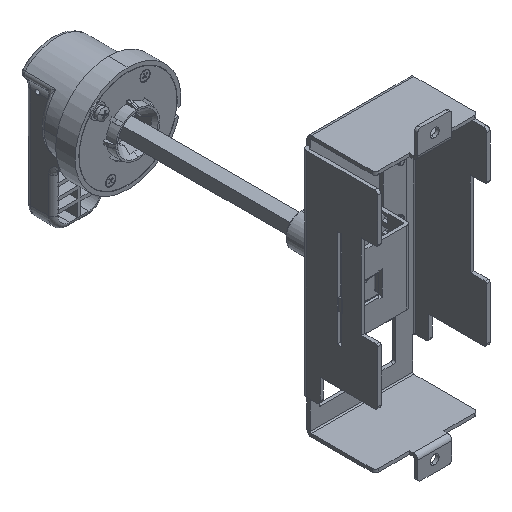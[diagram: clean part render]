
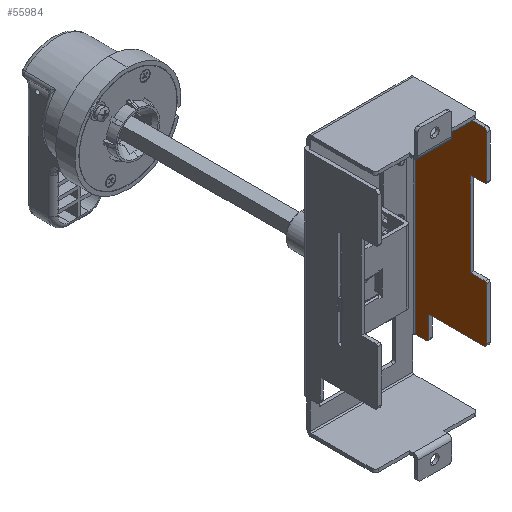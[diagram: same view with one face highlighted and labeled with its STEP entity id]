
A CAD part, isometric view. The second image highlights one B-rep face of the part: STEP entity #55984.
In plain terms, the highlighted planar face has unit normal (-1, 0, 0).
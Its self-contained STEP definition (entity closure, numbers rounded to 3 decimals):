
#4 = VERTEX_POINT ( 'NONE', #61435 ) ;
#207 = CIRCLE ( 'NONE', #48652, 1. ) ;
#311 = LINE ( 'NONE', #48510, #53849 ) ;
#364 = ORIENTED_EDGE ( 'NONE', *, *, #46900, .T. ) ;
#493 = VERTEX_POINT ( 'NONE', #13564 ) ;
#1115 = CARTESIAN_POINT ( 'NONE',  ( 44.972, 17.394, -58.7 ) ) ;
#1144 = CIRCLE ( 'NONE', #63835, 2. ) ;
#1389 = DIRECTION ( 'NONE',  ( 0., -1., 0. ) ) ;
#1519 = FACE_OUTER_BOUND ( 'NONE', #9848, .T. ) ;
#2169 = VERTEX_POINT ( 'NONE', #49997 ) ;
#2609 = CARTESIAN_POINT ( 'NONE',  ( 44.972, -26.369, 54.5 ) ) ;
#3381 = ORIENTED_EDGE ( 'NONE', *, *, #44784, .T. ) ;
#3413 = CARTESIAN_POINT ( 'NONE',  ( 44.972, -26.369, -10. ) ) ;
#3708 = CARTESIAN_POINT ( 'NONE',  ( 44.972, 148.666, 54.5 ) ) ;
#3819 = DIRECTION ( 'NONE',  ( 0., 0., -1. ) ) ;
#4084 = EDGE_CURVE ( 'NONE', #6227, #63816, #23210, .T. ) ;
#4148 = EDGE_CURVE ( 'NONE', #7546, #59393, #207, .T. ) ;
#4494 = CARTESIAN_POINT ( 'NONE',  ( 44.972, 9.131, -44. ) ) ;
#4529 = CARTESIAN_POINT ( 'NONE',  ( 44.972, -26.369, 54.5 ) ) ;
#4937 = CARTESIAN_POINT ( 'NONE',  ( 44.972, 11.131, -56.7 ) ) ;
#5058 = CARTESIAN_POINT ( 'NONE',  ( 44.972, -16.369, -9. ) ) ;
#6227 = VERTEX_POINT ( 'NONE', #47535 ) ;
#6502 = ORIENTED_EDGE ( 'NONE', *, *, #34983, .T. ) ;
#6683 = LINE ( 'NONE', #4529, #55047 ) ;
#7546 = VERTEX_POINT ( 'NONE', #3413 ) ;
#7803 = ORIENTED_EDGE ( 'NONE', *, *, #28020, .F. ) ;
#7988 = VECTOR ( 'NONE', #45775, 1000. ) ;
#8133 = AXIS2_PLACEMENT_3D ( 'NONE', #3708, #41187, #50863 ) ;
#8319 = CARTESIAN_POINT ( 'NONE',  ( 44.972, 17.394, 72.5 ) ) ;
#8654 = VECTOR ( 'NONE', #46830, 1000. ) ;
#9848 = EDGE_LOOP ( 'NONE', ( #16262, #6502, #15482, #56153, #27268, #56077, #23712, #3381, #33204, #10256, #16288, #11015, #34588, #364, #7803 ) ) ;
#10256 = ORIENTED_EDGE ( 'NONE', *, *, #40729, .T. ) ;
#10294 = DIRECTION ( 'NONE',  ( 0., 0., -1. ) ) ;
#10487 = VERTEX_POINT ( 'NONE', #45439 ) ;
#11015 = ORIENTED_EDGE ( 'NONE', *, *, #19395, .T. ) ;
#11220 = LINE ( 'NONE', #46560, #57691 ) ;
#12571 = DIRECTION ( 'NONE',  ( 0., 0., -1. ) ) ;
#13133 = CARTESIAN_POINT ( 'NONE',  ( 44.972, -24.369, 70.5 ) ) ;
#13564 = CARTESIAN_POINT ( 'NONE',  ( 44.972, -26.369, -42. ) ) ;
#15482 = ORIENTED_EDGE ( 'NONE', *, *, #22917, .T. ) ;
#16167 = EDGE_CURVE ( 'NONE', #61463, #43151, #29703, .T. ) ;
#16262 = ORIENTED_EDGE ( 'NONE', *, *, #16167, .T. ) ;
#16288 = ORIENTED_EDGE ( 'NONE', *, *, #16653, .F. ) ;
#16653 = EDGE_CURVE ( 'NONE', #4, #26269, #37208, .T. ) ;
#16744 = EDGE_CURVE ( 'NONE', #2169, #48540, #34700, .T. ) ;
#17793 = CARTESIAN_POINT ( 'NONE',  ( 44.972, 9.131, -56.7 ) ) ;
#17829 = DIRECTION ( 'NONE',  ( -1., 0., 0. ) ) ;
#18459 = DIRECTION ( 'NONE',  ( 0., 0., 1. ) ) ;
#19395 = EDGE_CURVE ( 'NONE', #4, #52447, #11220, .T. ) ;
#21037 = DIRECTION ( 'NONE',  ( -1., 0., 0. ) ) ;
#21649 = DIRECTION ( 'NONE',  ( 0., 0., -1. ) ) ;
#22917 = EDGE_CURVE ( 'NONE', #493, #7546, #6683, .T. ) ;
#23210 = LINE ( 'NONE', #5058, #63266 ) ;
#23712 = ORIENTED_EDGE ( 'NONE', *, *, #39711, .F. ) ;
#23717 = CARTESIAN_POINT ( 'NONE',  ( 44.972, 148.666, -58.7 ) ) ;
#24087 = CARTESIAN_POINT ( 'NONE',  ( 44.972, -24.369, -42. ) ) ;
#26269 = VERTEX_POINT ( 'NONE', #46221 ) ;
#26338 = CIRCLE ( 'NONE', #64117, 1. ) ;
#27268 = ORIENTED_EDGE ( 'NONE', *, *, #41089, .F. ) ;
#28020 = EDGE_CURVE ( 'NONE', #61463, #62460, #49801, .T. ) ;
#28308 = AXIS2_PLACEMENT_3D ( 'NONE', #13133, #50653, #21649 ) ;
#29703 = LINE ( 'NONE', #37256, #55281 ) ;
#32603 = DIRECTION ( 'NONE',  ( 0., 0., -1. ) ) ;
#32958 = DIRECTION ( 'NONE',  ( -1., 0., 0. ) ) ;
#33204 = ORIENTED_EDGE ( 'NONE', *, *, #16744, .T. ) ;
#34588 = ORIENTED_EDGE ( 'NONE', *, *, #63498, .T. ) ;
#34700 = LINE ( 'NONE', #2609, #56698 ) ;
#34730 = PLANE ( 'NONE',  #8133 ) ;
#34983 = EDGE_CURVE ( 'NONE', #43151, #493, #1144, .T. ) ;
#35306 = CARTESIAN_POINT ( 'NONE',  ( 44.972, -16.369, -9. ) ) ;
#37078 = CARTESIAN_POINT ( 'NONE',  ( 44.972, -25.369, 44. ) ) ;
#37208 = LINE ( 'NONE', #8319, #7988 ) ;
#37256 = CARTESIAN_POINT ( 'NONE',  ( 44.972, 11.958, -44. ) ) ;
#37267 = CARTESIAN_POINT ( 'NONE',  ( 44.972, 11.131, -58.7 ) ) ;
#39711 = EDGE_CURVE ( 'NONE', #10487, #6227, #49013, .T. ) ;
#40109 = VECTOR ( 'NONE', #32603, 1000. ) ;
#40427 = CARTESIAN_POINT ( 'NONE',  ( 44.972, -16.369, 43. ) ) ;
#40729 = EDGE_CURVE ( 'NONE', #48540, #26269, #63208, .T. ) ;
#41089 = EDGE_CURVE ( 'NONE', #63816, #59393, #311, .T. ) ;
#41187 = DIRECTION ( 'NONE',  ( 1., 0., 0. ) ) ;
#42040 = DIRECTION ( 'NONE',  ( 0., -1., 0. ) ) ;
#42152 = CARTESIAN_POINT ( 'NONE',  ( 44.972, -24.369, -44. ) ) ;
#42610 = CIRCLE ( 'NONE', #54545, 2. ) ;
#42989 = VERTEX_POINT ( 'NONE', #37267 ) ;
#43151 = VERTEX_POINT ( 'NONE', #42152 ) ;
#43300 = DIRECTION ( 'NONE',  ( 0., 0., 1. ) ) ;
#43696 = DIRECTION ( 'NONE',  ( 0., -1., 0. ) ) ;
#44784 = EDGE_CURVE ( 'NONE', #10487, #2169, #26338, .T. ) ;
#45259 = VECTOR ( 'NONE', #42040, 1000. ) ;
#45439 = CARTESIAN_POINT ( 'NONE',  ( 44.972, -25.369, 43. ) ) ;
#45775 = DIRECTION ( 'NONE',  ( 0., -1., 0. ) ) ;
#46007 = CARTESIAN_POINT ( 'NONE',  ( 44.972, -26.369, 70.5 ) ) ;
#46221 = CARTESIAN_POINT ( 'NONE',  ( 44.972, -24.369, 72.5 ) ) ;
#46560 = CARTESIAN_POINT ( 'NONE',  ( 44.972, 17.394, -58.7 ) ) ;
#46717 = DIRECTION ( 'NONE',  ( 0., 0., -1. ) ) ;
#46830 = DIRECTION ( 'NONE',  ( 0., 1., 0. ) ) ;
#46900 = EDGE_CURVE ( 'NONE', #42989, #62460, #42610, .T. ) ;
#47535 = CARTESIAN_POINT ( 'NONE',  ( 44.972, -16.369, 43. ) ) ;
#48510 = CARTESIAN_POINT ( 'NONE',  ( 44.972, -26.369, -9. ) ) ;
#48540 = VERTEX_POINT ( 'NONE', #46007 ) ;
#48652 = AXIS2_PLACEMENT_3D ( 'NONE', #58764, #32958, #62993 ) ;
#49013 = LINE ( 'NONE', #40427, #8654 ) ;
#49801 = LINE ( 'NONE', #65908, #40109 ) ;
#49997 = CARTESIAN_POINT ( 'NONE',  ( 44.972, -26.369, 44. ) ) ;
#50653 = DIRECTION ( 'NONE',  ( -1., 0., 0. ) ) ;
#50863 = DIRECTION ( 'NONE',  ( 0., 0., -1. ) ) ;
#52447 = VERTEX_POINT ( 'NONE', #1115 ) ;
#53026 = CARTESIAN_POINT ( 'NONE',  ( 44.972, -25.369, -9. ) ) ;
#53849 = VECTOR ( 'NONE', #1389, 1000. ) ;
#54545 = AXIS2_PLACEMENT_3D ( 'NONE', #4937, #17829, #10294 ) ;
#55047 = VECTOR ( 'NONE', #18459, 1000. ) ;
#55211 = DIRECTION ( 'NONE',  ( 0., 0., -1. ) ) ;
#55281 = VECTOR ( 'NONE', #43696, 1000. ) ;
#55984 = ADVANCED_FACE ( 'NONE', ( #1519 ), #34730, .F. ) ;
#56077 = ORIENTED_EDGE ( 'NONE', *, *, #4084, .F. ) ;
#56153 = ORIENTED_EDGE ( 'NONE', *, *, #4148, .T. ) ;
#56698 = VECTOR ( 'NONE', #43300, 1000. ) ;
#57691 = VECTOR ( 'NONE', #55211, 1000. ) ;
#58764 = CARTESIAN_POINT ( 'NONE',  ( 44.972, -25.369, -10. ) ) ;
#59393 = VERTEX_POINT ( 'NONE', #53026 ) ;
#60252 = LINE ( 'NONE', #23717, #45259 ) ;
#61435 = CARTESIAN_POINT ( 'NONE',  ( 44.972, 17.394, 72.5 ) ) ;
#61463 = VERTEX_POINT ( 'NONE', #4494 ) ;
#61672 = DIRECTION ( 'NONE',  ( -1., 0., 0. ) ) ;
#62460 = VERTEX_POINT ( 'NONE', #17793 ) ;
#62993 = DIRECTION ( 'NONE',  ( 0., 0., -1. ) ) ;
#63208 = CIRCLE ( 'NONE', #28308, 2. ) ;
#63266 = VECTOR ( 'NONE', #12571, 1000. ) ;
#63498 = EDGE_CURVE ( 'NONE', #52447, #42989, #60252, .T. ) ;
#63816 = VERTEX_POINT ( 'NONE', #35306 ) ;
#63835 = AXIS2_PLACEMENT_3D ( 'NONE', #24087, #61672, #3819 ) ;
#64117 = AXIS2_PLACEMENT_3D ( 'NONE', #37078, #21037, #46717 ) ;
#65908 = CARTESIAN_POINT ( 'NONE',  ( 44.972, 9.131, -58.7 ) ) ;
